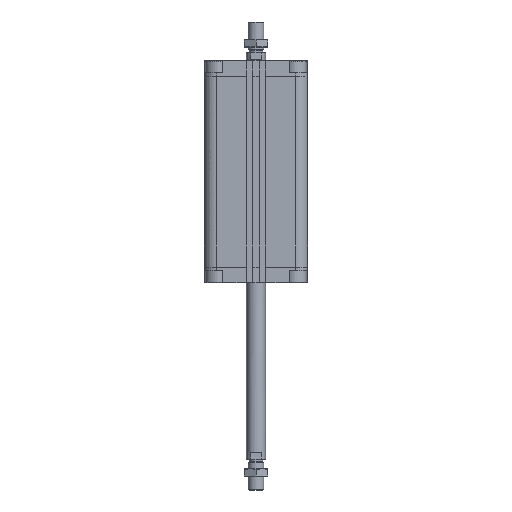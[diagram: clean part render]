
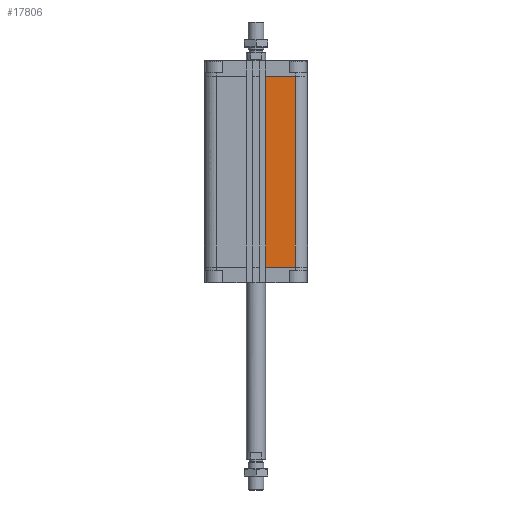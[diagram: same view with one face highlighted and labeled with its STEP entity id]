
A CAD part, front view. The second image highlights one B-rep face of the part: STEP entity #17806.
In plain terms, the highlighted planar face has unit normal (0, -1, 0).
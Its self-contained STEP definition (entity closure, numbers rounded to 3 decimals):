
#574 = ORIENTED_EDGE ( 'NONE', *, *, #3547, .F. ) ;
#607 = DIRECTION ( 'NONE',  ( 0., -1., 0. ) ) ;
#696 = ORIENTED_EDGE ( 'NONE', *, *, #3386, .T. ) ;
#1695 = CARTESIAN_POINT ( 'NONE',  ( 9.95, -53.5, -214.5 ) ) ;
#2349 = FACE_OUTER_BOUND ( 'NONE', #4809, .T. ) ;
#2438 = VERTEX_POINT ( 'NONE', #16213 ) ;
#2565 = VERTEX_POINT ( 'NONE', #18525 ) ;
#2726 = CARTESIAN_POINT ( 'NONE',  ( 9.95, -53.5, -214.5 ) ) ;
#3386 = EDGE_CURVE ( 'NONE', #2438, #2565, #11020, .T. ) ;
#3547 = EDGE_CURVE ( 'NONE', #16131, #2565, #22855, .T. ) ;
#4809 = EDGE_LOOP ( 'NONE', ( #574, #14221, #10439, #696 ) ) ;
#5434 = CARTESIAN_POINT ( 'NONE',  ( 9.95, -53.5, -214.5 ) ) ;
#5813 = CARTESIAN_POINT ( 'NONE',  ( 41., -53.5, -214.5 ) ) ;
#6018 = DIRECTION ( 'NONE',  ( 0., 0., 1. ) ) ;
#7293 = CARTESIAN_POINT ( 'NONE',  ( 9.95, -53.5, -16.5 ) ) ;
#7509 = VECTOR ( 'NONE', #22965, 1000. ) ;
#7685 = DIRECTION ( 'NONE',  ( -1., 0., 0. ) ) ;
#9408 = PLANE ( 'NONE',  #20914 ) ;
#10375 = DIRECTION ( 'NONE',  ( 0., 0., 1. ) ) ;
#10439 = ORIENTED_EDGE ( 'NONE', *, *, #12677, .T. ) ;
#11020 = LINE ( 'NONE', #5813, #18272 ) ;
#11066 = CARTESIAN_POINT ( 'NONE',  ( 9.95, -53.5, -16.5 ) ) ;
#11587 = VECTOR ( 'NONE', #19595, 1000. ) ;
#12116 = LINE ( 'NONE', #1695, #16312 ) ;
#12677 = EDGE_CURVE ( 'NONE', #17412, #2438, #17404, .T. ) ;
#14221 = ORIENTED_EDGE ( 'NONE', *, *, #17531, .F. ) ;
#16131 = VERTEX_POINT ( 'NONE', #11066 ) ;
#16213 = CARTESIAN_POINT ( 'NONE',  ( 41., -53.5, -214.5 ) ) ;
#16312 = VECTOR ( 'NONE', #10375, 1000. ) ;
#16499 = CARTESIAN_POINT ( 'NONE',  ( 9.95, -53.5, -214.5 ) ) ;
#17404 = LINE ( 'NONE', #5434, #11587 ) ;
#17412 = VERTEX_POINT ( 'NONE', #2726 ) ;
#17531 = EDGE_CURVE ( 'NONE', #17412, #16131, #12116, .T. ) ;
#17806 = ADVANCED_FACE ( 'NONE', ( #2349 ), #9408, .T. ) ;
#18272 = VECTOR ( 'NONE', #6018, 1000. ) ;
#18525 = CARTESIAN_POINT ( 'NONE',  ( 41., -53.5, -16.5 ) ) ;
#19595 = DIRECTION ( 'NONE',  ( 1., 0., 0. ) ) ;
#20914 = AXIS2_PLACEMENT_3D ( 'NONE', #16499, #607, #7685 ) ;
#22855 = LINE ( 'NONE', #7293, #7509 ) ;
#22965 = DIRECTION ( 'NONE',  ( 1., 0., 0. ) ) ;
